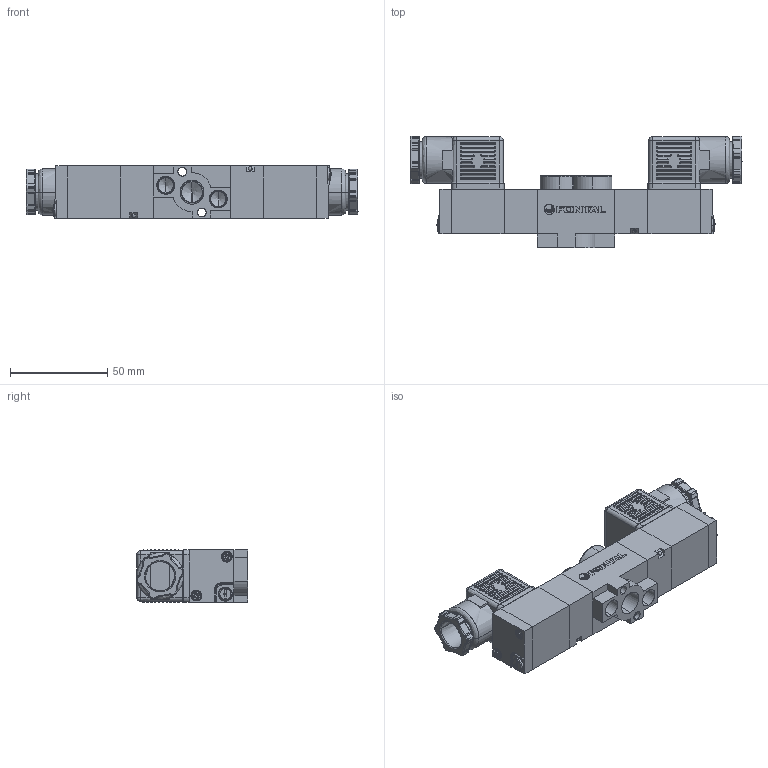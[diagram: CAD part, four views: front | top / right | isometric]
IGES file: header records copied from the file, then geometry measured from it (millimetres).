
Start section: SolidWorks IGES file using analytic representation for surfaces
Global section: file name: D:\Custom\3D繪製\PC\RC06\RCD2406-02-#C##.IGS,1; native system: 5HSolidWorks 2014; preprocessor: SolidWorks 2014; author: Chieh_Lu; date: 150803.214744; units: millimetre
Bounding box: 170.7 x 57.14 x 27.15 mm (x, y, z)
Surface area: 44285 mm2 (no closed solid volume)
Topology: 0 solids, 0 shells, 1317 faces, 10814 edges, 10528 vertices
Faces by surface type: revolution 783, bspline 534
